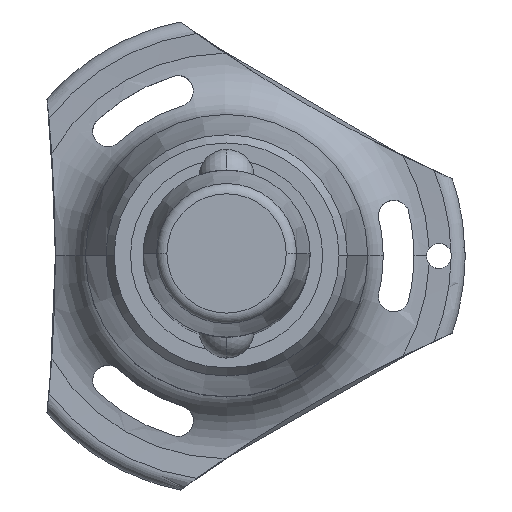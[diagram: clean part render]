
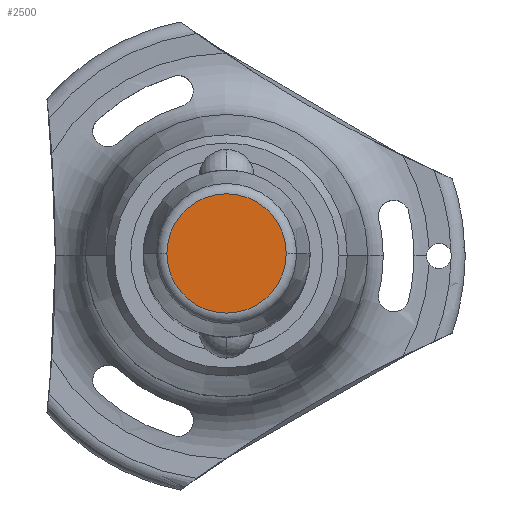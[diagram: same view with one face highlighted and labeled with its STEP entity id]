
A CAD part, top view. The second image highlights one B-rep face of the part: STEP entity #2500.
In plain terms, the highlighted planar face has unit normal (0, 0, 1).
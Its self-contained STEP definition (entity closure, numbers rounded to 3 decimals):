
#124 = DIRECTION ( 'NONE',  ( 0., 0., 1. ) ) ;
#318 = ORIENTED_EDGE ( 'NONE', *, *, #2274, .T. ) ;
#450 = AXIS2_PLACEMENT_3D ( 'NONE', #2587, #2364, #2815 ) ;
#541 = CIRCLE ( 'NONE', #450, 7.144 ) ;
#786 = PLANE ( 'NONE',  #1876 ) ;
#863 = CIRCLE ( 'NONE', #1920, 7.144 ) ;
#932 = EDGE_LOOP ( 'NONE', ( #318, #1837 ) ) ;
#941 = CARTESIAN_POINT ( 'NONE',  ( -7.144, 0., 20.5 ) ) ;
#1001 = FACE_OUTER_BOUND ( 'NONE', #932, .T. ) ;
#1204 = DIRECTION ( 'NONE',  ( 0., 0., 1. ) ) ;
#1215 = CARTESIAN_POINT ( 'NONE',  ( 0., 0., 20.5 ) ) ;
#1336 = EDGE_CURVE ( 'NONE', #2401, #1574, #863, .T. ) ;
#1574 = VERTEX_POINT ( 'NONE', #2490 ) ;
#1684 = DIRECTION ( 'NONE',  ( 1., 0., 0. ) ) ;
#1837 = ORIENTED_EDGE ( 'NONE', *, *, #1336, .T. ) ;
#1876 = AXIS2_PLACEMENT_3D ( 'NONE', #1888, #124, #1684 ) ;
#1888 = CARTESIAN_POINT ( 'NONE',  ( 0., 0., 20.5 ) ) ;
#1920 = AXIS2_PLACEMENT_3D ( 'NONE', #1215, #1204, #2289 ) ;
#2274 = EDGE_CURVE ( 'NONE', #1574, #2401, #541, .T. ) ;
#2289 = DIRECTION ( 'NONE',  ( 1., 0., 0. ) ) ;
#2364 = DIRECTION ( 'NONE',  ( 0., 0., 1. ) ) ;
#2401 = VERTEX_POINT ( 'NONE', #941 ) ;
#2490 = CARTESIAN_POINT ( 'NONE',  ( 7.144, 0., 20.5 ) ) ;
#2500 = ADVANCED_FACE ( 'NONE', ( #1001 ), #786, .T. ) ;
#2587 = CARTESIAN_POINT ( 'NONE',  ( 0., 0., 20.5 ) ) ;
#2815 = DIRECTION ( 'NONE',  ( 1., 0., 0. ) ) ;
